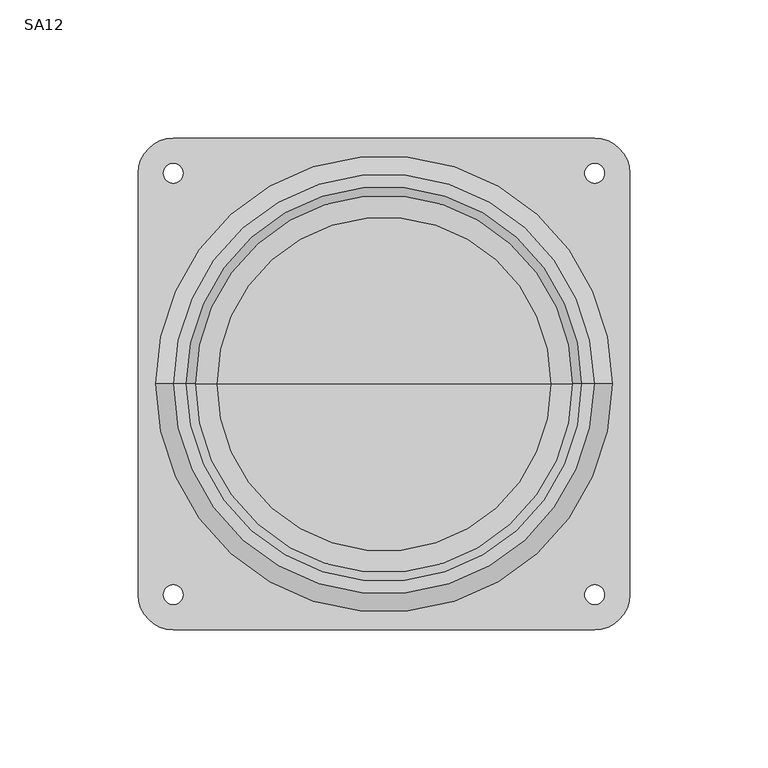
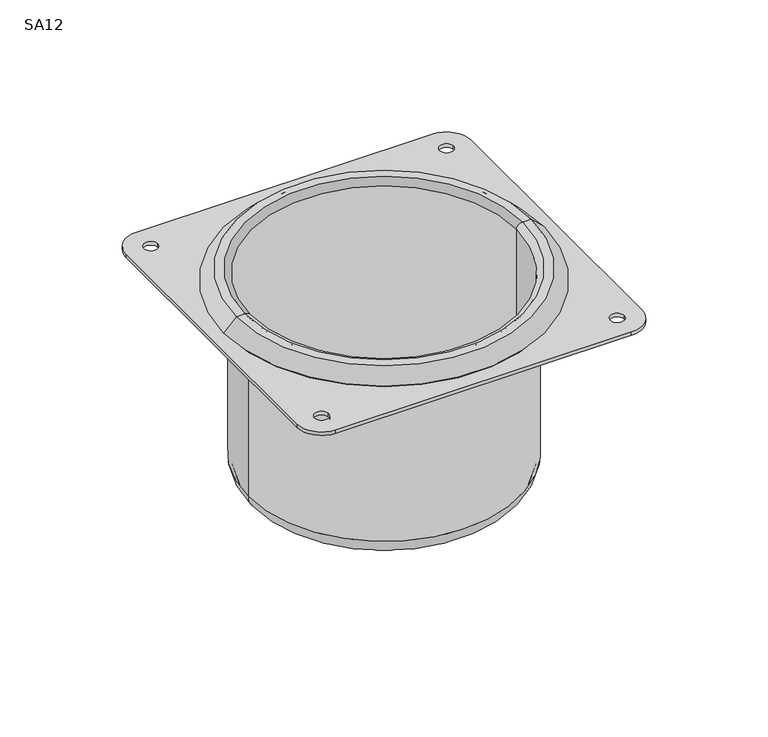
"""IFC4 building model written with IfcOpenShell, lengths in millimetres: proxy geometry, Security_Accessories-Bradley-SA12 : SA12."""

from ifc_helpers import new_model, si_unit, point, frame, frame_2d, origin, origin_with_axes, origin_2d, place, context, project, spatial, polyline, circle_curve, ellipse_curve, trimmed, segment, composite_curve, outline, extrude, source, transform, mapped, element, save
from ifc_brep_helpers import plane_surface, cylinder_surface, revolved_surface, advanced_brep


def sa12_6de3b1ef(model_context):
    return source(origin(), model_context, "Body", "SolidModel", [
        extrude(outline(composite_curve([segment(polyline([(-88.9, -76.2), (-88.9, 76.2)]), True, "CONTINUOUS"), segment(trimmed(circle_curve(frame_2d((-76.2, 76.2)), 12.7), [point((-88.9, 76.2))], [point((-76.2, 88.9))], False, "CARTESIAN"), True, "CONTINUOUS"), segment(polyline([(-76.2, 88.9), (76.2, 88.9)]), True, "CONTINUOUS"), segment(trimmed(circle_curve(frame_2d((76.2, 76.2)), 12.7), [point((76.2, 88.9))], [point((88.9, 76.2))], False, "CARTESIAN"), True, "CONTINUOUS"), segment(polyline([(88.9, 76.2), (88.9, -76.2)]), True, "CONTINUOUS"), segment(trimmed(circle_curve(frame_2d((76.2, -76.2)), 12.7), [point((88.9, -76.2))], [point((76.2, -88.9))], False, "CARTESIAN"), True, "CONTINUOUS"), segment(polyline([(76.2, -88.9), (-76.2, -88.9)]), True, "CONTINUOUS"), segment(trimmed(circle_curve(frame_2d((-76.2, -76.2)), 12.7), [point((-76.2, -88.9))], [point((-88.9, -76.2))], False, "CARTESIAN"), True, "CONTINUOUS")], self_intersect=False), holes=[composite_curve([segment(trimmed(circle_curve(frame_2d((-76.2, -76.2)), 3.571875), [point((-79.771875, -76.2))], [point((-72.628125, -76.2))], True, "CARTESIAN"), True, "CONTINUOUS"), segment(trimmed(circle_curve(frame_2d((-76.2, -76.2)), 3.571875), [point((-72.628125, -76.2))], [point((-79.771875, -76.2))], True, "CARTESIAN"), True, "CONTINUOUS")], self_intersect=False), composite_curve([segment(trimmed(circle_curve(frame_2d((-76.2, 76.2)), 3.571875), [point((-79.771875, 76.2))], [point((-72.628125, 76.2))], True, "CARTESIAN"), True, "CONTINUOUS"), segment(trimmed(circle_curve(frame_2d((-76.2, 76.2)), 3.571875), [point((-72.628125, 76.2))], [point((-79.771875, 76.2))], True, "CARTESIAN"), True, "CONTINUOUS")], self_intersect=False), composite_curve([segment(trimmed(circle_curve(frame_2d((76.2, 76.2)), 3.571875), [point((72.628125, 76.2))], [point((79.771875, 76.2))], True, "CARTESIAN"), True, "CONTINUOUS"), segment(trimmed(circle_curve(frame_2d((76.2, 76.2)), 3.571875), [point((79.771875, 76.2))], [point((72.628125, 76.2))], True, "CARTESIAN"), True, "CONTINUOUS")], self_intersect=False), composite_curve([segment(trimmed(circle_curve(frame_2d((76.2, -76.2)), 3.571875), [point((72.628125, -76.2))], [point((79.771875, -76.2))], True, "CARTESIAN"), True, "CONTINUOUS"), segment(trimmed(circle_curve(frame_2d((76.2, -76.2)), 3.571875), [point((79.771875, -76.2))], [point((72.628125, -76.2))], True, "CARTESIAN"), True, "CONTINUOUS")], self_intersect=False), composite_curve([segment(trimmed(circle_curve(origin_2d(), 81.4723693), [point((-81.4723693, 0.0))], [point((81.4723693, 0.0))], True, "CARTESIAN"), True, "CONTINUOUS"), segment(trimmed(circle_curve(origin_2d(), 81.4723693), [point((81.4723693, 0.0))], [point((-81.4723693, 0.0))], True, "CARTESIAN"), True, "CONTINUOUS")], self_intersect=False)]), origin_with_axes(), (0.0, 0.0, 1.0), 1.905),
        advanced_brep(
        [(68.326, 0.0, 6.4135), (68.326, 0.0, -90.551), (-68.326, 0.0, -90.551), (-68.326, 0.0, 6.4135), (71.4375, 0.0, 9.525), (-71.4375, 0.0, 9.525), (76.0076307, 0.0, 9.525), (-76.0076307, 0.0, 9.525), (82.55, 0.0, 2.9826307), (-82.55, 0.0, 2.9826307), (81.4723693, 0.0, 1.905), (-81.4723693, 0.0, 1.905), (75.3763693, 0.0, 8.001), (-75.3763693, 0.0, 8.001), (71.4375, 0.0, 8.001), (-71.4375, 0.0, 8.001), (69.85, 0.0, 6.4135), (-69.85, 0.0, 6.4135), (69.85, 0.0, -90.551), (-69.85, 0.0, -90.551), (60.3885, 0.0, -100.0125), (-60.3885, 0.0, -100.0125), (0.0, 0.0, -100.0125), (60.3885, 0.0, -98.4885), (0.0, 0.0, -98.4885), (-60.3885, 0.0, -98.4885)],
        [
            (0, 1),
            (1, 2, circle_curve(frame((0.0, 0.0, -90.551), z_axis=(0.0, 0.0, -1.0), x_axis=(-1.0, 0.0, 0.0)), 68.326)),
            (2, 3),
            (3, 0, circle_curve(frame((0.0, 0.0, 6.4135), z_axis=(0.0, 0.0, 1.0), x_axis=(-1.0, 0.0, 0.0)), 68.326)),
            (2, 1, circle_curve(frame((0.0, 0.0, -90.551), z_axis=(0.0, 0.0, -1.0), x_axis=(-1.0, 0.0, 0.0)), 68.326)),
            (0, 3, circle_curve(frame((0.0, 0.0, 6.4135), z_axis=(0.0, 0.0, 1.0), x_axis=(-1.0, 0.0, 0.0)), 68.326)),
            (4, 0, circle_curve(frame((71.4375, 0.0, 6.4135), z_axis=(0.0, -1.0, 0.0), x_axis=(-1.0, 0.0, 0.0)), 3.1115)),
            (3, 5, circle_curve(frame((-71.4375, 0.0, 6.4135), z_axis=(0.0, -1.0, 0.0), x_axis=(1.0, 0.0, 0.0)), 3.1115)),
            (5, 4, circle_curve(frame((0.0, 0.0, 9.525), z_axis=(0.0, 0.0, 1.0), x_axis=(-1.0, 0.0, 0.0)), 71.4375)),
            (4, 5, circle_curve(frame((0.0, 0.0, 9.525), z_axis=(0.0, 0.0, 1.0), x_axis=(-1.0, 0.0, 0.0)), 71.4375)),
            (6, 4),
            (5, 7),
            (7, 6, circle_curve(frame((0.0, 0.0, 9.525), z_axis=(0.0, 0.0, 1.0), x_axis=(-1.0, 0.0, 0.0)), 76.0076307)),
            (6, 7, circle_curve(frame((0.0, 0.0, 9.525), z_axis=(0.0, 0.0, 1.0), x_axis=(-1.0, 0.0, 0.0)), 76.0076307)),
            (8, 6),
            (7, 9),
            (9, 8, circle_curve(frame((0.0, 0.0, 2.9826307), z_axis=(0.0, 0.0, 1.0), x_axis=(-1.0, 0.0, 0.0)), 82.55)),
            (8, 9, circle_curve(frame((0.0, 0.0, 2.9826307), z_axis=(0.0, 0.0, 1.0), x_axis=(-1.0, 0.0, 0.0)), 82.55)),
            (10, 8),
            (9, 11),
            (11, 10, circle_curve(frame((0.0, 0.0, 1.905), z_axis=(0.0, 0.0, 1.0), x_axis=(-1.0, 0.0, 0.0)), 81.4723693)),
            (10, 11, circle_curve(frame((0.0, 0.0, 1.905), z_axis=(0.0, 0.0, 1.0), x_axis=(-1.0, 0.0, 0.0)), 81.4723693)),
            (12, 10),
            (11, 13),
            (13, 12, circle_curve(frame((0.0, 0.0, 8.001), z_axis=(0.0, 0.0, 1.0), x_axis=(-1.0, 0.0, 0.0)), 75.3763693)),
            (12, 13, circle_curve(frame((0.0, 0.0, 8.001), z_axis=(0.0, 0.0, 1.0), x_axis=(-1.0, 0.0, 0.0)), 75.3763693)),
            (14, 12),
            (13, 15),
            (15, 14, circle_curve(frame((0.0, 0.0, 8.001), z_axis=(0.0, 0.0, 1.0), x_axis=(-1.0, 0.0, 0.0)), 71.4375)),
            (14, 15, circle_curve(frame((0.0, 0.0, 8.001), z_axis=(0.0, 0.0, 1.0), x_axis=(-1.0, 0.0, 0.0)), 71.4375)),
            (16, 14, circle_curve(frame((71.4375, 0.0, 6.4135), z_axis=(0.0, 1.0, 0.0), x_axis=(-1.0, 0.0, 0.0)), 1.5875)),
            (15, 17, circle_curve(frame((-71.4375, 0.0, 6.4135), z_axis=(0.0, 1.0, 0.0), x_axis=(1.0, 0.0, 0.0)), 1.5875)),
            (17, 16, circle_curve(frame((0.0, 0.0, 6.4135), z_axis=(0.0, 0.0, 1.0), x_axis=(-1.0, 0.0, 0.0)), 69.85)),
            (16, 17, circle_curve(frame((0.0, 0.0, 6.4135), z_axis=(0.0, 0.0, 1.0), x_axis=(-1.0, 0.0, 0.0)), 69.85)),
            (18, 16),
            (17, 19),
            (19, 18, circle_curve(frame((0.0, 0.0, -90.551), z_axis=(0.0, 0.0, 1.0), x_axis=(-1.0, 0.0, 0.0)), 69.85)),
            (18, 19, circle_curve(frame((0.0, 0.0, -90.551), z_axis=(0.0, 0.0, 1.0), x_axis=(-1.0, 0.0, 0.0)), 69.85)),
            (20, 18, circle_curve(frame((60.3885, 0.0, -90.551), z_axis=(0.0, -1.0, 0.0), x_axis=(-1.0, 0.0, 0.0)), 9.4615)),
            (19, 21, circle_curve(frame((-60.3885, 0.0, -90.551), z_axis=(0.0, -1.0, 0.0), x_axis=(1.0, 0.0, 0.0)), 9.4615)),
            (21, 20, circle_curve(frame((0.0, 0.0, -100.0125), z_axis=(0.0, 0.0, 1.0), x_axis=(-1.0, 0.0, 0.0)), 60.3885)),
            (20, 21, circle_curve(frame((0.0, 0.0, -100.0125), z_axis=(0.0, 0.0, 1.0), x_axis=(-1.0, 0.0, 0.0)), 60.3885)),
            (22, 20),
            (21, 22),
            (23, 24),
            (24, 25),
            (25, 23, circle_curve(frame((0.0, 0.0, -98.4885), z_axis=(0.0, 0.0, 1.0), x_axis=(-1.0, 0.0, 0.0)), 60.3885)),
            (23, 25, circle_curve(frame((0.0, 0.0, -98.4885), z_axis=(0.0, 0.0, 1.0), x_axis=(-1.0, 0.0, 0.0)), 60.3885)),
            (1, 23, circle_curve(frame((60.3885, 0.0, -90.551), z_axis=(0.0, 1.0, 0.0), x_axis=(-1.0, 0.0, 0.0)), 7.9375)),
            (25, 2, circle_curve(frame((-60.3885, 0.0, -90.551), z_axis=(0.0, 1.0, 0.0), x_axis=(1.0, 0.0, 0.0)), 7.9375)),
        ],
        [
            revolved_surface(polyline([(-68.326, 0.0, -90.551), (-68.326, 0.0, 6.413499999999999)]), (0.0, 0.0, -119.0625), (0.0, 0.0, -1.0)),
            revolved_surface(trimmed(ellipse_curve(frame((-71.4375, 0.0, 6.4135), z_axis=(0.0, -1.0, 0.0), x_axis=(1.0, 0.0, 0.0)), 3.1115, 3.1115), [point((-68.326, 0.0, 6.4135))], [point((-71.4375, 0.0, 9.525))], True, "CARTESIAN"), (0.0, 0.0, -119.0625), (0.0, 0.0, -1.0)),
            plane_surface(frame((0.0, 0.0, 9.525), z_axis=(0.0, 0.0, 1.0), x_axis=(-1.0, 0.0, 0.0))),
            revolved_surface(polyline([(-76.0076307, 0.0, 9.525), (-82.55, 0.0, 2.9826307)]), (0.0, 0.0, -119.0625), (0.0, 0.0, -1.0)),
            revolved_surface(polyline([(-82.55, 0.0, 2.9826307), (-81.4723693, 0.0, 1.905)]), (0.0, 0.0, -119.0625), (0.0, 0.0, -1.0)),
            revolved_surface(polyline([(-81.4723693, 0.0, 1.905), (-75.3763693, 0.0, 8.001)]), (0.0, 0.0, -119.0625), (0.0, 0.0, -1.0)),
            plane_surface(frame((0.0, 0.0, 8.001), z_axis=(0.0, 0.0, -1.0), x_axis=(-1.0, 0.0, 0.0))),
            revolved_surface(trimmed(ellipse_curve(frame((-71.4375, 0.0, 6.4135), z_axis=(0.0, 1.0, 0.0), x_axis=(1.0, 0.0, 0.0)), 1.5875, 1.5875), [point((-71.4375, 0.0, 8.001))], [point((-69.85, 0.0, 6.4135))], True, "CARTESIAN"), (0.0, 0.0, -119.0625), (0.0, 0.0, -1.0)),
            cylinder_surface(frame((0.0, 0.0, -119.0625), z_axis=(0.0, 0.0, -1.0), x_axis=(-1.0, 0.0, 0.0)), 69.85),
            revolved_surface(trimmed(ellipse_curve(frame((-60.3885, 0.0, -90.551), z_axis=(0.0, -1.0, 0.0), x_axis=(1.0, 0.0, 0.0)), 9.4615, 9.4615), [point((-69.85, 0.0, -90.551))], [point((-60.3885, 0.0, -100.0125))], True, "CARTESIAN"), (0.0, 0.0, -119.0625), (0.0, 0.0, -1.0)),
            plane_surface(frame((0.0, 0.0, -100.0125), z_axis=(0.0, 0.0, -1.0), x_axis=(-1.0, 0.0, 0.0))),
            plane_surface(frame((0.0, 0.0, -98.4885), z_axis=(0.0, 0.0, 1.0), x_axis=(-1.0, 0.0, 0.0))),
            revolved_surface(trimmed(ellipse_curve(frame((-60.3885, 0.0, -90.551), z_axis=(0.0, 1.0, 0.0), x_axis=(1.0, 0.0, 0.0)), 7.9375, 7.9375), [point((-60.3885, 0.0, -98.4885))], [point((-68.326, 0.0, -90.551))], True, "CARTESIAN"), (0.0, 0.0, -119.0625), (0.0, 0.0, -1.0)),
        ],
        [
            (0, [[1, 2, 3, 4]]),
            (0, [[-3, 5, -1, 6]]),
            (1, [[7, -4, 8, 9]]),
            (1, [[-8, -6, -7, 10]]),
            (2, [[11, -9, 12, 13]]),
            (2, [[-12, -10, -11, 14]]),
            (3, [[15, -13, 16, 17]]),
            (3, [[-16, -14, -15, 18]]),
            (4, [[19, -17, 20, 21]]),
            (4, [[-20, -18, -19, 22]]),
            (5, [[23, -21, 24, 25]]),
            (5, [[-24, -22, -23, 26]]),
            (6, [[27, -25, 28, 29]]),
            (6, [[-28, -26, -27, 30]]),
            (7, [[31, -29, 32, 33]]),
            (7, [[-32, -30, -31, 34]]),
            (8, [[35, -33, 36, 37]]),
            (8, [[-36, -34, -35, 38]]),
            (9, [[39, -37, 40, 41]]),
            (9, [[-40, -38, -39, 42]]),
            (10, [[43, -41, 44]]),
            (10, [[-44, -42, -43]]),
            (11, [[45, 46, 47]]),
            (11, [[-46, -45, 48]]),
            (12, [[49, -47, 50, -2]]),
            (12, [[-50, -48, -49, -5]]),
        ],
    ),
    ])


if __name__ == "__main__":
    model = new_model("IFC4")
    model_context = context("Model", 3, world=origin())
    ifc_project = project(units=[si_unit("LENGTHUNIT", "METRE", prefix="MILLI")], contexts=[model_context])
    site = spatial("IfcSite", under=ifc_project)
    building = spatial("IfcBuilding", under=site)
    placement = place(None, origin())
    sa12_shape = sa12_6de3b1ef(model_context)
    element("IfcBuildingElementProxy", 1, Name="Security_Accessories-Bradley-SA12 : SA12", ObjectType="Security_Accessories-Bradley-SA12 : SA12", at=placement, inside=building, context=model_context, shape_type="MappedRepresentation", body=[
        mapped(sa12_shape, transform((0.0, 0.0, 0.0), x_axis=(1.0, 0.0, 0.0), y_axis=(0.0, 1.0, 0.0), z_axis=(0.0, 0.0, 1.0))),
    ])
    save(model, "model.ifc")
